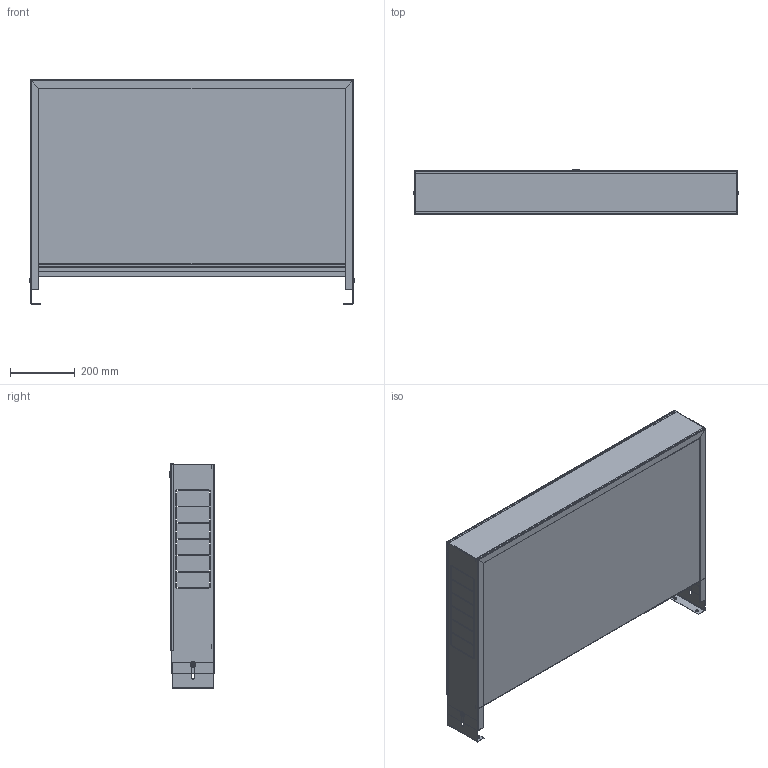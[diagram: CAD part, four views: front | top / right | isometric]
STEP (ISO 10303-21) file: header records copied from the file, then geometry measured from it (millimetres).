
FILE_DESCRIPTION(('TFLEX Exchange Step'),'2;1');
FILE_NAME('Manifold cabinet VTc.541.D.05 Valtec.stp', '2023-10-11T14:15:21+03:00',('denis'),('Unknown organisation'),'TFLEX Exchange 2023.0','T-FLEX CAD','Unknown authorisation');
FILE_SCHEMA( ('AUTOMOTIVE_DESIGN { 1 0 10303 214 1 1 1 1 }') );
Length unit declared in the file: millimetre
Products named in the file (1): Nodes
Bounding box: 1009 x 139.9 x 695 mm (x, y, z)
Volume: 1363039.2 mm3; surface area: 3315540.2 mm2
Topology: 9 solids, 10 shells, 504 faces, 1335 edges, 859 vertices
Faces by surface type: plane 372, cylinder 87, cone 31, bspline 12, torus 2
Full cylindrical faces by diameter (mm): 6 x4, 6.4 x2, 7 x2, 10 x5, 12 x1, 16 x1, 18 x2, 20 x2
Entity records: 18079 total; most frequent: CARTESIAN_POINT 5474, ORIENTED_EDGE 2670, DIRECTION 2391, EDGE_CURVE 1335, VECTOR 1009, LINE 1009, VERTEX_POINT 859, AXIS2_PLACEMENT_3D 691
